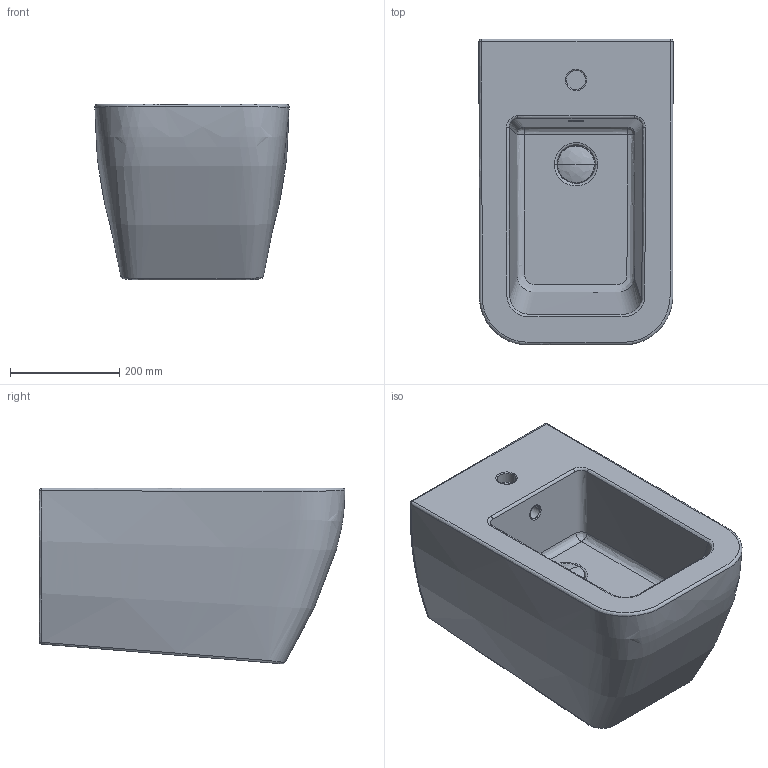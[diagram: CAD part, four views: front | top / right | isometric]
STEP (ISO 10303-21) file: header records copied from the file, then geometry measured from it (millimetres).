
FILE_DESCRIPTION(/* description */ (''),/* implementation_level */ '2;1');
FILE_NAME(/* name */ 'QUADRA~1',/* time_stamp */ '2020-08-28T10:34:37+02:00',/* author */ (''),/* organization */ (''),/* preprocessor_version */ 'ST-DEVELOPER v15',/* originating_system */ '',/* authorisation */ '');
FILE_SCHEMA (('AUTOMOTIVE_DESIGN'));
Length unit declared in the file: millimetre
Products named in the file (1): Document
Bounding box: 355.38 x 560.06 x 321.47 mm (x, y, z)
Volume: 25500.3 mm3; surface area: 944599.2 mm2
Topology: 1 solids, 2 shells, 45 faces, 98 edges, 56 vertices
Faces by surface type: bspline 39, plane 6
Entity records: 4867 total; most frequent: CARTESIAN_POINT 4310, ORIENTED_EDGE 186, EDGE_CURVE 94, VERTEX_POINT 56, EDGE_LOOP 49, ADVANCED_FACE 45, FACE_OUTER_BOUND 45, DIRECTION 12
